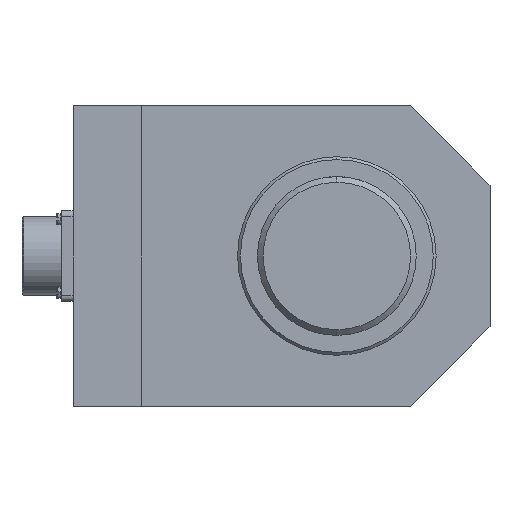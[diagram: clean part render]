
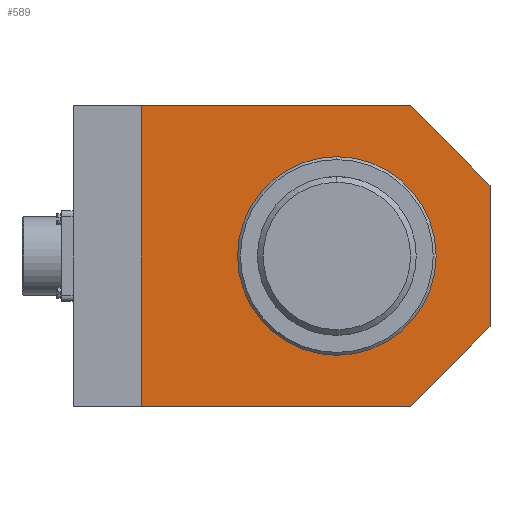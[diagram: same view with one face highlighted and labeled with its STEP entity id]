
A CAD part, left-side view. The second image highlights one B-rep face of the part: STEP entity #589.
In plain terms, the highlighted planar face has unit normal (-1, 0, 0).
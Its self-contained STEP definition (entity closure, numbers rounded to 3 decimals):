
#133 = VECTOR ( 'NONE', #5600, 1000. ) ;
#172 = ORIENTED_EDGE ( 'NONE', *, *, #5894, .F. ) ;
#253 = VERTEX_POINT ( 'NONE', #3574 ) ;
#313 = DIRECTION ( 'NONE',  ( 0., 0., 1. ) ) ;
#589 = ADVANCED_FACE ( 'NONE', ( #3964, #2397 ), #5968, .F. ) ;
#824 = EDGE_CURVE ( 'NONE', #253, #7752, #3341, .T. ) ;
#1311 = CIRCLE ( 'NONE', #1388, 17.5 ) ;
#1388 = AXIS2_PLACEMENT_3D ( 'NONE', #6357, #2373, #7047 ) ;
#1526 = EDGE_CURVE ( 'NONE', #2574, #5810, #3321, .T. ) ;
#1720 = CARTESIAN_POINT ( 'NONE',  ( -28., -13., 26.5 ) ) ;
#1723 = LINE ( 'NONE', #1880, #8400 ) ;
#1880 = CARTESIAN_POINT ( 'NONE',  ( -28., -27., 12.5 ) ) ;
#2023 = CARTESIAN_POINT ( 'NONE',  ( -28., 0., 0. ) ) ;
#2098 = CARTESIAN_POINT ( 'NONE',  ( -28., 0., 0. ) ) ;
#2373 = DIRECTION ( 'NONE',  ( -1., 0., 0. ) ) ;
#2397 = FACE_OUTER_BOUND ( 'NONE', #2886, .T. ) ;
#2532 = DIRECTION ( 'NONE',  ( 0., -1., 0. ) ) ;
#2574 = VERTEX_POINT ( 'NONE', #8237 ) ;
#2589 = CARTESIAN_POINT ( 'NONE',  ( -28., -13., -26.5 ) ) ;
#2647 = ORIENTED_EDGE ( 'NONE', *, *, #2657, .F. ) ;
#2657 = EDGE_CURVE ( 'NONE', #4107, #3524, #1311, .T. ) ;
#2694 = DIRECTION ( 'NONE',  ( 0., 0., -1. ) ) ;
#2770 = DIRECTION ( 'NONE',  ( 0., 0., -1. ) ) ;
#2886 = EDGE_LOOP ( 'NONE', ( #6249, #3517, #7635, #5045, #7672, #3260 ) ) ;
#2902 = AXIS2_PLACEMENT_3D ( 'NONE', #2098, #6769, #2770 ) ;
#3085 = EDGE_LOOP ( 'NONE', ( #2647, #172 ) ) ;
#3214 = DIRECTION ( 'NONE',  ( 0., 0., -1. ) ) ;
#3260 = ORIENTED_EDGE ( 'NONE', *, *, #7620, .F. ) ;
#3270 = VERTEX_POINT ( 'NONE', #1720 ) ;
#3321 = LINE ( 'NONE', #2589, #6869 ) ;
#3341 = LINE ( 'NONE', #4950, #7099 ) ;
#3494 = LINE ( 'NONE', #4209, #7049 ) ;
#3517 = ORIENTED_EDGE ( 'NONE', *, *, #3807, .F. ) ;
#3524 = VERTEX_POINT ( 'NONE', #7972 ) ;
#3574 = CARTESIAN_POINT ( 'NONE',  ( -28., 34.5, -26.5 ) ) ;
#3807 = EDGE_CURVE ( 'NONE', #5810, #253, #7015, .T. ) ;
#3964 = FACE_BOUND ( 'NONE', #3085, .T. ) ;
#4107 = VERTEX_POINT ( 'NONE', #8026 ) ;
#4209 = CARTESIAN_POINT ( 'NONE',  ( -28., -13., 26.5 ) ) ;
#4647 = CIRCLE ( 'NONE', #2902, 17.5 ) ;
#4650 = CARTESIAN_POINT ( 'NONE',  ( -28., 34.5, 26.5 ) ) ;
#4950 = CARTESIAN_POINT ( 'NONE',  ( -28., 34.5, -26.5 ) ) ;
#5045 = ORIENTED_EDGE ( 'NONE', *, *, #8331, .F. ) ;
#5376 = AXIS2_PLACEMENT_3D ( 'NONE', #2023, #6683, #2694 ) ;
#5565 = CARTESIAN_POINT ( 'NONE',  ( -28., -27., 12.5 ) ) ;
#5600 = DIRECTION ( 'NONE',  ( 0., 1., 0. ) ) ;
#5810 = VERTEX_POINT ( 'NONE', #6495 ) ;
#5843 = CARTESIAN_POINT ( 'NONE',  ( -28., 46.5, 26.5 ) ) ;
#5894 = EDGE_CURVE ( 'NONE', #3524, #4107, #4647, .T. ) ;
#5968 = PLANE ( 'NONE',  #5376 ) ;
#6249 = ORIENTED_EDGE ( 'NONE', *, *, #824, .F. ) ;
#6357 = CARTESIAN_POINT ( 'NONE',  ( -28., 0., 0. ) ) ;
#6495 = CARTESIAN_POINT ( 'NONE',  ( -28., -13., -26.5 ) ) ;
#6528 = EDGE_CURVE ( 'NONE', #3270, #7398, #3494, .T. ) ;
#6683 = DIRECTION ( 'NONE',  ( 1., 0., 0. ) ) ;
#6769 = DIRECTION ( 'NONE',  ( -1., 0., 0. ) ) ;
#6869 = VECTOR ( 'NONE', #7782, 1000. ) ;
#6895 = DIRECTION ( 'NONE',  ( 0., -0.707, -0.707 ) ) ;
#7015 = LINE ( 'NONE', #7612, #133 ) ;
#7047 = DIRECTION ( 'NONE',  ( 0., 0., -1. ) ) ;
#7049 = VECTOR ( 'NONE', #6895, 1000. ) ;
#7099 = VECTOR ( 'NONE', #313, 1000. ) ;
#7398 = VERTEX_POINT ( 'NONE', #5565 ) ;
#7612 = CARTESIAN_POINT ( 'NONE',  ( -28., 46.5, -26.5 ) ) ;
#7620 = EDGE_CURVE ( 'NONE', #7752, #3270, #7887, .T. ) ;
#7635 = ORIENTED_EDGE ( 'NONE', *, *, #1526, .F. ) ;
#7672 = ORIENTED_EDGE ( 'NONE', *, *, #6528, .F. ) ;
#7752 = VERTEX_POINT ( 'NONE', #4650 ) ;
#7782 = DIRECTION ( 'NONE',  ( 0., 0.707, -0.707 ) ) ;
#7887 = LINE ( 'NONE', #5843, #8088 ) ;
#7972 = CARTESIAN_POINT ( 'NONE',  ( -28., 0., 17.5 ) ) ;
#8026 = CARTESIAN_POINT ( 'NONE',  ( -28., 0., -17.5 ) ) ;
#8088 = VECTOR ( 'NONE', #2532, 1000. ) ;
#8237 = CARTESIAN_POINT ( 'NONE',  ( -28., -27., -12.5 ) ) ;
#8331 = EDGE_CURVE ( 'NONE', #7398, #2574, #1723, .T. ) ;
#8400 = VECTOR ( 'NONE', #3214, 1000. ) ;
